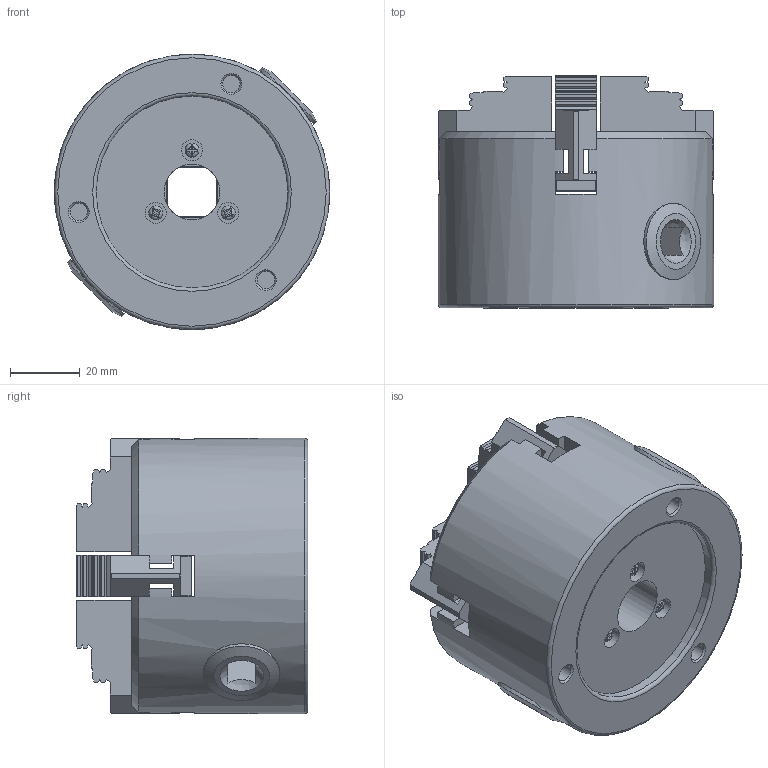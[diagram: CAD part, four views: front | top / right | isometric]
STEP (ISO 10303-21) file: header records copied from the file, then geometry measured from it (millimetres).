
FILE_DESCRIPTION(/* description */ (''),/* implementation_level */ '2;1');
FILE_NAME(/* name */ 'K12-80.stp',/* time_stamp */ '2025-10-17T09:52:48+03:00',/* author */ ('Arina Rekina'),/* organization */ (''),/* preprocessor_version */ 'ST-DEVELOPER v19.2',/* originating_system */ 'Autodesk Inventor 2024',/* authorisation */ '');
FILE_SCHEMA (('AUTOMOTIVE_DESIGN { 1 0 10303 214 3 1 1 }'));
Length unit declared in the file: millimetre
Products named in the file (3): K12-160; Часть 1; Часть 2
Assembly tree (5 placements, depth 2):
  K12-160
    Часть 1
    Часть 2  x4
Bounding box: 79 x 66.5 x 79 mm (x, y, z)
Volume: 235788.2 mm3; surface area: 47105.2 mm2
Topology: 5 solids, 5 shells, 424 faces, 1191 edges, 791 vertices
Faces by surface type: plane 388, cylinder 20, cone 9, bspline 5, torus 2
Full cylindrical faces by diameter (mm): 4 x3, 5 x3, 6 x3, 16 x1, 55 x1, 79 x1
Entity records: 7411 total; most frequent: CARTESIAN_POINT 1775, ORIENTED_EDGE 1176, DIRECTION 1058, EDGE_CURVE 588, LINE 422, VECTOR 422, VERTEX_POINT 389, AXIS2_PLACEMENT_3D 318
